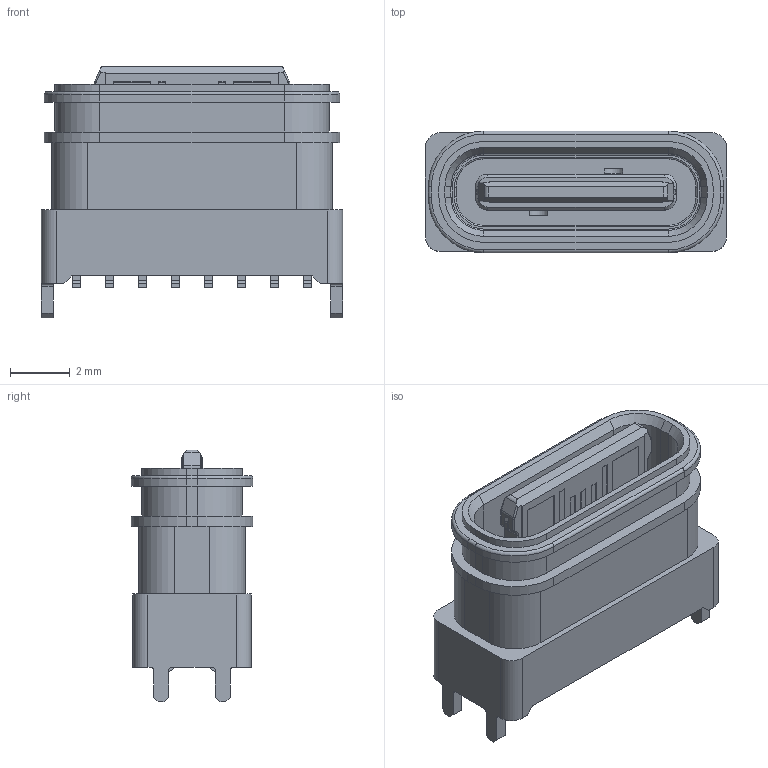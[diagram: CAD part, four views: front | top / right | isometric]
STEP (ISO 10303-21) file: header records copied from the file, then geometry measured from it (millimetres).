
FILE_DESCRIPTION((''),'2;1');
FILE_NAME('1030049','2023-07-14T09:42:16',('Administrator'),(''),'CREO PARAMETRIC BY PTC INC, 2019080','CREO PARAMETRIC BY PTC INC, 2019080','');
FILE_SCHEMA(('CONFIG_CONTROL_DESIGN'));
Length unit declared in the file: millimetre
Products named in the file (1): 1030049
Bounding box: 10.04 x 4.06 x 8.4 mm (x, y, z)
Volume: 157.5 mm3; surface area: 489.1 mm2
Topology: 1 solids, 32 shells, 779 faces, 1986 edges, 1294 vertices
Faces by surface type: plane 539, cylinder 168, cone 40, torus 28, bspline 4
Entity records: 23779 total; most frequent: CARTESIAN_POINT 4738, ORIENTED_EDGE 3968, DIRECTION 3846, EDGE_CURVE 1984, VECTOR 1512, LINE 1512, VERTEX_POINT 1294, AXIS2_PLACEMENT_3D 1167
